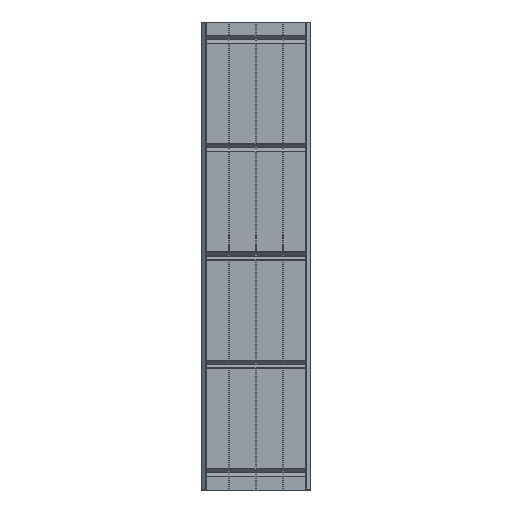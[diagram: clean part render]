
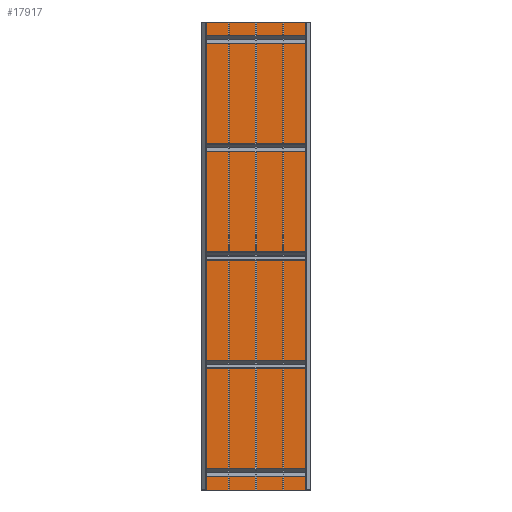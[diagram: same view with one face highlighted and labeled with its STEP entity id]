
A CAD part, front view. The second image highlights one B-rep face of the part: STEP entity #17917.
In plain terms, the highlighted planar face has unit normal (0, -1, 0).
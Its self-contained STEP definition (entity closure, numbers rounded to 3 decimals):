
#160 = VECTOR ( 'NONE', #5528, 1000. ) ;
#997 = LINE ( 'NONE', #18074, #11438 ) ;
#2348 = VECTOR ( 'NONE', #20358, 1000. ) ;
#3260 = CARTESIAN_POINT ( 'NONE',  ( 342.9, -68.75, 20. ) ) ;
#3559 = LINE ( 'NONE', #28777, #47631 ) ;
#4516 = EDGE_CURVE ( 'NONE', #7526, #17931, #997, .T. ) ;
#5528 = DIRECTION ( 'NONE',  ( 1., 0., 0. ) ) ;
#7526 = VERTEX_POINT ( 'NONE', #26341 ) ;
#7846 = EDGE_CURVE ( 'NONE', #7526, #37471, #21808, .T. ) ;
#8353 = PLANE ( 'NONE',  #15574 ) ;
#9740 = ORIENTED_EDGE ( 'NONE', *, *, #7846, .T. ) ;
#11216 = ORIENTED_EDGE ( 'NONE', *, *, #21955, .F. ) ;
#11438 = VECTOR ( 'NONE', #22022, 1000. ) ;
#11648 = LINE ( 'NONE', #3260, #2348 ) ;
#11774 = ORIENTED_EDGE ( 'NONE', *, *, #47618, .T. ) ;
#15574 = AXIS2_PLACEMENT_3D ( 'NONE', #26011, #34968, #51540 ) ;
#17917 = ADVANCED_FACE ( 'NONE', ( #22083 ), #8353, .T. ) ;
#17931 = VERTEX_POINT ( 'NONE', #29669 ) ;
#18074 = CARTESIAN_POINT ( 'NONE',  ( -342.9, -68.75, 20. ) ) ;
#20358 = DIRECTION ( 'NONE',  ( 0., 0., 1. ) ) ;
#20663 = DIRECTION ( 'NONE',  ( 1., 0., 0. ) ) ;
#21808 = LINE ( 'NONE', #35231, #160 ) ;
#21955 = EDGE_CURVE ( 'NONE', #17931, #24116, #3559, .T. ) ;
#22022 = DIRECTION ( 'NONE',  ( 0., 0., 1. ) ) ;
#22083 = FACE_OUTER_BOUND ( 'NONE', #40027, .T. ) ;
#24116 = VERTEX_POINT ( 'NONE', #38619 ) ;
#26011 = CARTESIAN_POINT ( 'NONE',  ( -342.9, -68.75, 20. ) ) ;
#26341 = CARTESIAN_POINT ( 'NONE',  ( -342.9, -68.75, 20. ) ) ;
#28777 = CARTESIAN_POINT ( 'NONE',  ( -342.9, -68.75, 3010. ) ) ;
#29669 = CARTESIAN_POINT ( 'NONE',  ( -342.9, -68.75, 3010. ) ) ;
#34968 = DIRECTION ( 'NONE',  ( 0., -1., 0. ) ) ;
#35231 = CARTESIAN_POINT ( 'NONE',  ( -342.9, -68.75, 20. ) ) ;
#36896 = CARTESIAN_POINT ( 'NONE',  ( 342.9, -68.75, 20. ) ) ;
#37471 = VERTEX_POINT ( 'NONE', #36896 ) ;
#38619 = CARTESIAN_POINT ( 'NONE',  ( 342.9, -68.75, 3010. ) ) ;
#40027 = EDGE_LOOP ( 'NONE', ( #11774, #11216, #52391, #9740 ) ) ;
#47618 = EDGE_CURVE ( 'NONE', #37471, #24116, #11648, .T. ) ;
#47631 = VECTOR ( 'NONE', #20663, 1000. ) ;
#51540 = DIRECTION ( 'NONE',  ( 0., 0., -1. ) ) ;
#52391 = ORIENTED_EDGE ( 'NONE', *, *, #4516, .F. ) ;
